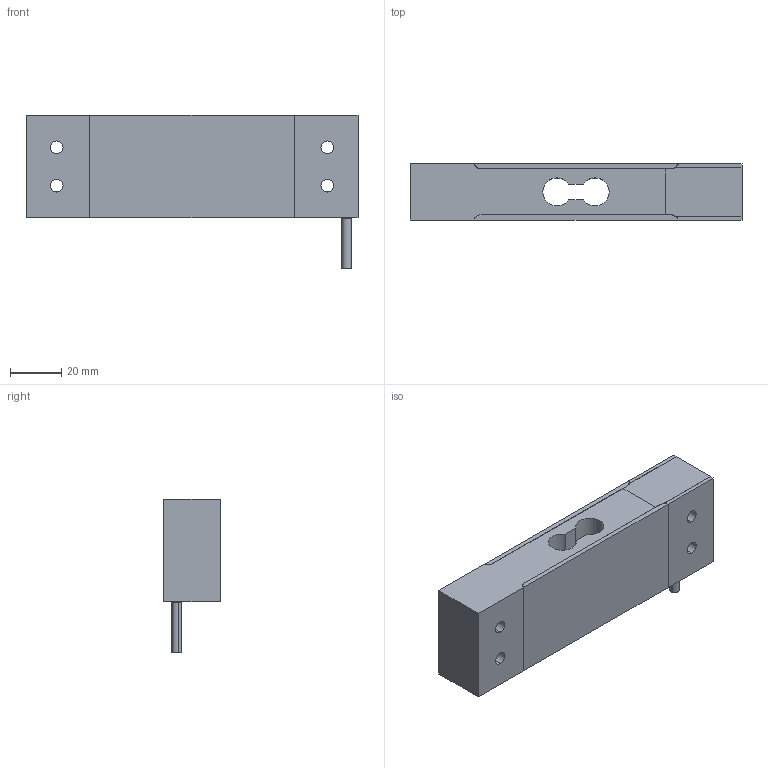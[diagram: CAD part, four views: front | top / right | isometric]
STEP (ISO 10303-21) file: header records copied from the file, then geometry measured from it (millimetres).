
FILE_DESCRIPTION (( 'STEP AP214' ), '1' );
FILE_NAME ('L6D8 assy.STEP', '2012-01-31T08:52:36', ( 'Gebruiker' ), ( 'Microsoft' ), 'SwSTEP 2.0', 'SolidWorks 2011', '' );
FILE_SCHEMA (( 'AUTOMOTIVE_DESIGN' ));
Length unit declared in the file: millimetre
Products named in the file (5): L6D8 cable; L6D8 J-box cover; L6D8 silicon layer; L6D8-200kg element; L6D8 assy
Assembly tree (5 placements, depth 2):
  L6D8 assy
    L6D8 silicon layer  x2
    L6D8 cable
    L6D8-200kg element
    L6D8 J-box cover
Bounding box: 130 x 22 x 60 mm (x, y, z)
Volume: 104182.2 mm3; surface area: 37164.2 mm2
Topology: 5 solids, 5 shells, 73 faces, 179 edges, 116 vertices
Faces by surface type: plane 36, cylinder 29, torus 4, cone 4
Entity records: 2493 total; most frequent: DIRECTION 379, CARTESIAN_POINT 370, ORIENTED_EDGE 334, EDGE_CURVE 167, AXIS2_PLACEMENT_3D 139, VERTEX_POINT 108, VECTOR 101, LINE 101
